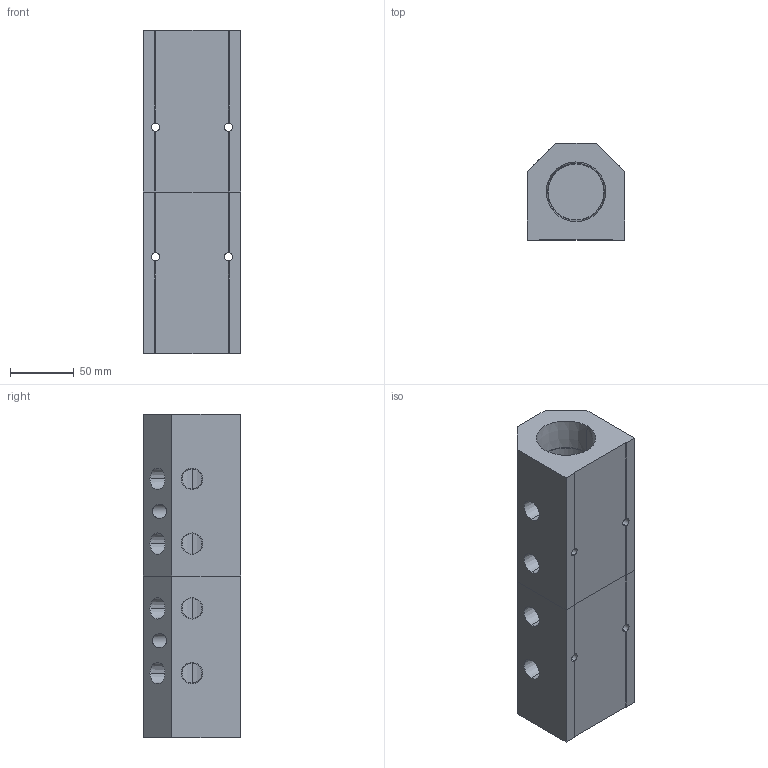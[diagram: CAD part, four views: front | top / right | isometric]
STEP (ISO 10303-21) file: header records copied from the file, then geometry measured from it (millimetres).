
FILE_DESCRIPTION (( 'STEP AP214' ), '1' );
FILE_NAME ('ALM4AB-N6N24-254RB.step', '2022-02-07T09:15:53', ( '' ), ( '' ), 'SwSTEP 2.0', 'SolidWorks 2020', '' );
FILE_SCHEMA (( 'AUTOMOTIVE_DESIGN' ));
Length unit declared in the file: millimetre
Products named in the file (1): ALM4AB-N6N24-254RB
Bounding box: 76.2 x 76.2 x 254 mm (x, y, z)
Volume: 914898.2 mm3; surface area: 135915.9 mm2
Topology: 2 solids, 2 shells, 358 faces, 941 edges, 622 vertices
Faces by surface type: plane 261, bspline 57, cone 20, cylinder 20
Entity records: 18661 total; most frequent: CARTESIAN_POINT 6827, ORIENTED_EDGE 1882, DIRECTION 1455, EDGE_CURVE 941, LINE 739, VECTOR 739, VERTEX_POINT 622, EDGE_LOOP 417
